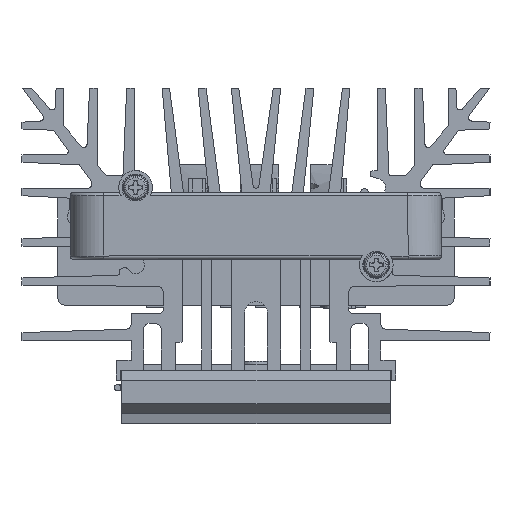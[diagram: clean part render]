
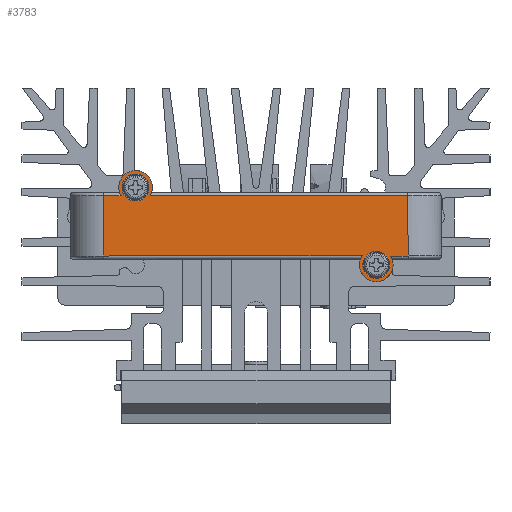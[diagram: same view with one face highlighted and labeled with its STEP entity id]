
A CAD part, front view. The second image highlights one B-rep face of the part: STEP entity #3783.
In plain terms, the highlighted planar face has unit normal (0, -1, 0).
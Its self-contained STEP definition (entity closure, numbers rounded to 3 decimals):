
#85=LINE('',#15880,#1338);
#86=LINE('',#15915,#1339);
#88=LINE('',#15975,#1341);
#90=LINE('',#15982,#1343);
#91=LINE('',#15985,#1344);
#92=LINE('',#15987,#1345);
#1338=VECTOR('',#12709,1.);
#1339=VECTOR('',#12714,1.);
#1341=VECTOR('',#12724,1.);
#1343=VECTOR('',#12732,1.);
#1344=VECTOR('',#12735,1.);
#1345=VECTOR('',#12736,1.);
#2760=PLANE('',#11746);
#3783=ADVANCED_FACE('',(#4565,#4566,#4567),#2760,.T.);
#4565=FACE_BOUND('',#4706,.T.);
#4566=FACE_BOUND('',#4707,.T.);
#4567=FACE_BOUND('',#4708,.T.);
#4706=EDGE_LOOP('',(#5427));
#4707=EDGE_LOOP('',(#5428));
#4708=EDGE_LOOP('',(#5429,#5430,#5431,#5432,#5433,#5434,#5435,#5436));
#5427=ORIENTED_EDGE('',*,*,#9788,.T.);
#5428=ORIENTED_EDGE('',*,*,#9789,.F.);
#5429=ORIENTED_EDGE('',*,*,#9778,.T.);
#5430=ORIENTED_EDGE('',*,*,#9766,.T.);
#5431=ORIENTED_EDGE('',*,*,#9774,.T.);
#5432=ORIENTED_EDGE('',*,*,#9790,.T.);
#5433=ORIENTED_EDGE('',*,*,#9786,.T.);
#5434=ORIENTED_EDGE('',*,*,#9791,.T.);
#5435=ORIENTED_EDGE('',*,*,#9792,.T.);
#5436=ORIENTED_EDGE('',*,*,#9793,.T.);
#8671=VERTEX_POINT('',#15834);
#8672=VERTEX_POINT('',#15835);
#8678=VERTEX_POINT('',#15879);
#8681=VERTEX_POINT('',#15916);
#8684=VERTEX_POINT('',#15923);
#8687=VERTEX_POINT('',#15973);
#8689=VERTEX_POINT('',#15979);
#8690=VERTEX_POINT('',#15981);
#8691=VERTEX_POINT('',#15984);
#8692=VERTEX_POINT('',#15986);
#9766=EDGE_CURVE('',#8671,#8672,#11406,.T.);
#9774=EDGE_CURVE('',#8672,#8678,#85,.T.);
#9778=EDGE_CURVE('',#8681,#8671,#86,.T.);
#9786=EDGE_CURVE('',#8684,#8687,#88,.T.);
#9788=EDGE_CURVE('',#8689,#8689,#11413,.T.);
#9789=EDGE_CURVE('',#8690,#8690,#11414,.T.);
#9790=EDGE_CURVE('',#8678,#8684,#90,.T.);
#9791=EDGE_CURVE('',#8687,#8691,#11415,.T.);
#9792=EDGE_CURVE('',#8691,#8692,#91,.T.);
#9793=EDGE_CURVE('',#8692,#8681,#92,.T.);
#11406=CIRCLE('',#11732,2.5);
#11413=CIRCLE('',#11743,2.);
#11414=CIRCLE('',#11744,2.);
#11415=CIRCLE('',#11745,2.5);
#11732=AXIS2_PLACEMENT_3D('',#15833,#12698,#12699);
#11743=AXIS2_PLACEMENT_3D('',#15978,#12728,#12729);
#11744=AXIS2_PLACEMENT_3D('',#15980,#12730,#12731);
#11745=AXIS2_PLACEMENT_3D('',#15983,#12733,#12734);
#11746=AXIS2_PLACEMENT_3D('',#15988,#12737,#12738);
#12698=DIRECTION('',(0.,-1.,0.));
#12699=DIRECTION('',(0.,0.,-1.));
#12709=DIRECTION('',(-1.,0.,0.));
#12714=DIRECTION('',(-1.,0.,0.));
#12724=DIRECTION('',(1.,0.,0.));
#12728=DIRECTION('',(0.,1.,0.));
#12729=DIRECTION('',(0.,0.,1.));
#12730=DIRECTION('',(0.,-1.,0.));
#12731=DIRECTION('',(0.,0.,-1.));
#12732=DIRECTION('',(0.,0.,-1.));
#12733=DIRECTION('',(0.,-1.,0.));
#12734=DIRECTION('',(0.,0.,-1.));
#12735=DIRECTION('',(1.,0.,0.));
#12736=DIRECTION('',(-0.011,0.,1.));
#12737=DIRECTION('',(0.,-1.,0.));
#12738=DIRECTION('',(0.,0.,1.));
#15833=CARTESIAN_POINT('',(-310.938,-23.3,-6.195));
#15834=CARTESIAN_POINT('',(-308.776,-23.3,-7.45));
#15835=CARTESIAN_POINT('',(-313.1,-23.3,-7.45));
#15879=CARTESIAN_POINT('',(-315.686,-23.3,-7.45));
#15880=CARTESIAN_POINT('',(-315.686,-23.3,-7.45));
#15915=CARTESIAN_POINT('',(-275.082,-23.3,-7.45));
#15916=CARTESIAN_POINT('',(-270.425,-23.3,-7.45));
#15923=CARTESIAN_POINT('',(-315.683,-23.3,-16.4));
#15973=CARTESIAN_POINT('',(-277.202,-23.3,-16.4));
#15975=CARTESIAN_POINT('',(-275.082,-23.3,-16.4));
#15978=CARTESIAN_POINT('',(-275.082,-23.3,-17.726));
#15979=CARTESIAN_POINT('',(-275.082,-23.3,-15.726));
#15980=CARTESIAN_POINT('',(-310.938,-23.3,-6.195));
#15981=CARTESIAN_POINT('',(-310.938,-23.3,-8.195));
#15982=CARTESIAN_POINT('',(-315.683,-23.3,-16.283));
#15983=CARTESIAN_POINT('',(-275.082,-23.3,-17.726));
#15984=CARTESIAN_POINT('',(-272.963,-23.3,-16.4));
#15985=CARTESIAN_POINT('',(-289.3,-23.3,-16.4));
#15986=CARTESIAN_POINT('',(-270.329,-23.3,-16.4));
#15987=CARTESIAN_POINT('',(-270.423,-23.3,-7.638));
#15988=CARTESIAN_POINT('',(-275.082,-23.3,-17.726));
